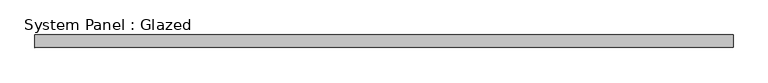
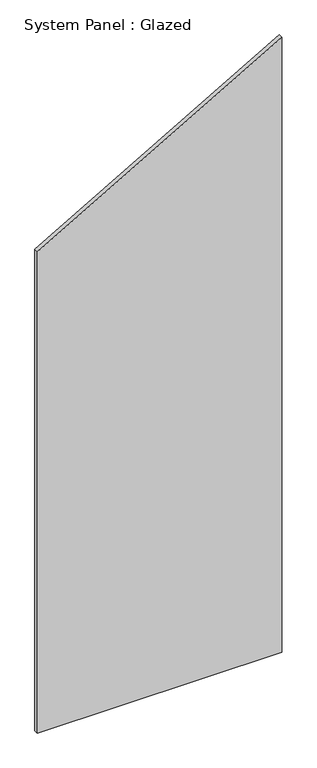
"""IFC4 building model written with IfcOpenShell, lengths in millimetres: plate geometry, System Panel : Glazed."""

from ifc_helpers import new_model, si_unit, frame, origin, place, context, project, spatial, polyline, outline, extrude, source, transform, mapped, element, save


def system_panel_glazed_599459a6(model_context):
    return source(origin(), model_context, "Body", "SweptSolid", [
        extrude(outline(polyline([(0.0, -694.4400387), (0.0, 694.4400387), (3696.6084818, 694.4400387), (2894.7381952, -694.4400387), (0.0, -694.4400387)])), frame((0.0, -49.5, 0.0), z_axis=(0.0, 1.0, 0.0), x_axis=(0.0, 0.0, 1.0)), (0.0, 0.0, 1.0), 25.0),
    ])


if __name__ == "__main__":
    model = new_model("IFC4")
    model_context = context("Model", 3, world=origin())
    ifc_project = project(units=[si_unit("LENGTHUNIT", "METRE", prefix="MILLI")], contexts=[model_context])
    site = spatial("IfcSite", under=ifc_project)
    building = spatial("IfcBuilding", under=site)
    placement = place(None, origin())
    system_panel_glazed_shape = system_panel_glazed_599459a6(model_context)
    element("IfcPlate", 1, ObjectType="System Panel : Glazed", at=placement, inside=building, context=model_context, shape_type="MappedRepresentation", body=[
        mapped(system_panel_glazed_shape, transform((0.0, 0.0, 0.0), x_axis=(1.0, 0.0, 0.0), y_axis=(0.0, 1.0, 0.0), z_axis=(0.0, 0.0, 1.0))),
    ])
    save(model, "model.ifc")
